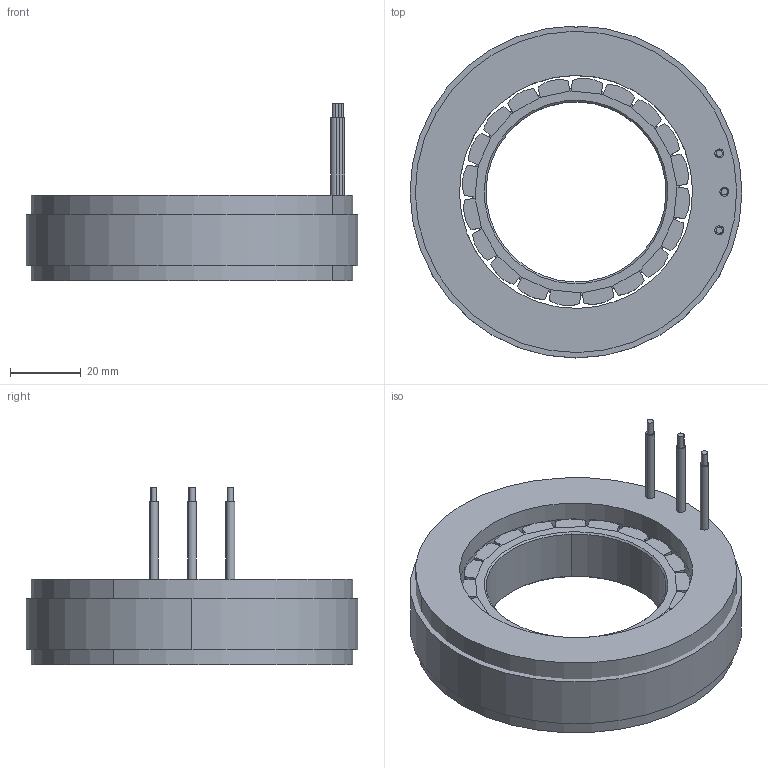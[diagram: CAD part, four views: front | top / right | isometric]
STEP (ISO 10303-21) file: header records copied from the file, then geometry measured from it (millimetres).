
FILE_DESCRIPTION (( 'STEP AP214' ), '1' );
FILE_NAME ('9424µç»ú - ÐÂ.STEP', '2025-02-18T05:57:56', ( '' ), ( '' ), 'SwSTEP 2.0', 'SolidWorks 2023', '' );
FILE_SCHEMA (( 'AUTOMOTIVE_DESIGN' ));
Length unit declared in the file: millimetre
Products named in the file (10): 9413胶; AWG14电缆+; AWG14黑; 9424电机 - 新; 9413磁铁; 9413定子; 9413转轴; 9424转子; 9413线圈; 9413铁心涂覆
Assembly tree (47 placements, depth 3):
  9424电机 - 新
    9413定子
      9413铁心涂覆
      9413线圈  x18
      9413胶
    9424转子
      9413转轴
      9413磁铁  x20
    AWG14电缆+  x3
      AWG14黑
Bounding box: 94 x 94 x 50.2 mm (x, y, z)
Volume: 130348.2 mm3; surface area: 67702.4 mm2
Topology: 44 solids, 44 shells, 719 faces, 1871 edges, 1246 vertices
Faces by surface type: plane 466, cylinder 249, cone 4
Entity records: 9639 total; most frequent: CARTESIAN_POINT 1649, DIRECTION 1623, ORIENTED_EDGE 1582, EDGE_CURVE 791, LINE 623, VECTOR 623, VERTEX_POINT 526, AXIS2_PLACEMENT_3D 500
